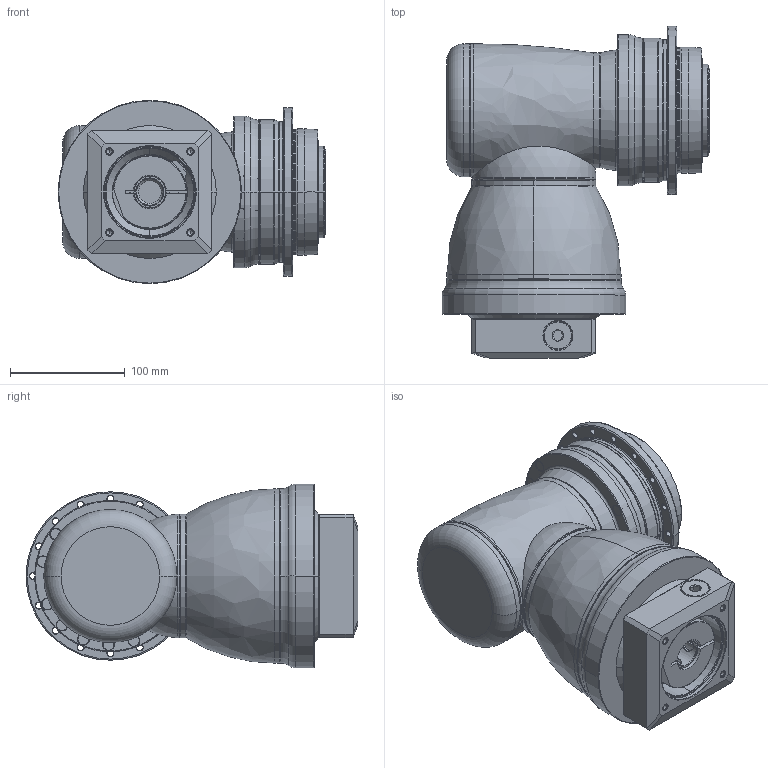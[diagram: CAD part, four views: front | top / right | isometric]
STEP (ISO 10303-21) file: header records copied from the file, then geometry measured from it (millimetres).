
FILE_DESCRIPTION((''),'2;1');
FILE_NAME('APK110_2ST_SBG_24-P0409510201_ASM','2018-10-30T',('d01226'),(''),'PRO/ENGINEER BY PARAMETRIC TECHNOLOGY CORPORATION, 2015240','PRO/ENGINEER BY PARAMETRIC TECHNOLOGY CORPORATION, 2015240','');
FILE_SCHEMA(('CONFIG_CONTROL_DESIGN'));
Length unit declared in the file: millimetre
Products named in the file (13): P0278401003; P0359401103; P1211400001; P1802410011; P1018500002; P1365500001; P1007501001; P1318501001; P0503500010; P0912550001; P0409510201; 21711418017; APK110_2ST_SBG_24-P0409510201_ASM
Assembly tree (12 placements, depth 2):
  APK110_2ST_SBG_24-P0409510201_ASM
    P0278401003
    P0359401103
    P1211400001
    P1802410011
    P1018500002
    P1365500001
    P1007501001
    P1318501001
    P0503500010
    P0912550001
    P0409510201
    21711418017
Bounding box: 233.5 x 289.5 x 160 mm (x, y, z)
Volume: 4650843.3 mm3; surface area: 474492.2 mm2
Topology: 13 solids, 34 shells, 787 faces, 1813 edges, 1114 vertices
Faces by surface type: cylinder 333, cone 201, plane 154, torus 78, bspline 19, sphere 2
Entity records: 27809 total; most frequent: CARTESIAN_POINT 9209, DIRECTION 4292, ORIENTED_EDGE 3468, AXIS2_PLACEMENT_3D 1846, EDGE_CURVE 1777, VERTEX_POINT 1114, CIRCLE 1043, EDGE_LOOP 933
